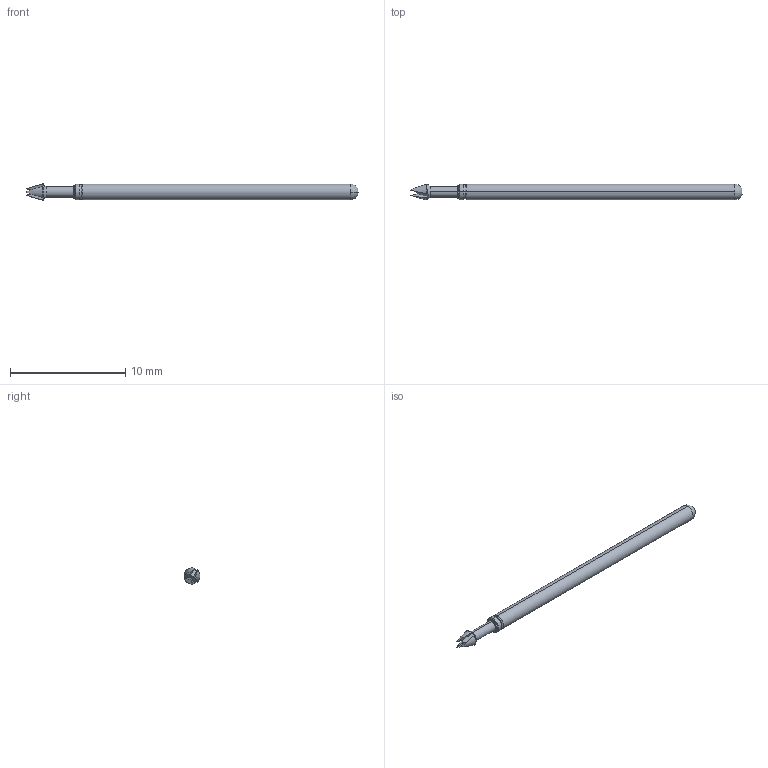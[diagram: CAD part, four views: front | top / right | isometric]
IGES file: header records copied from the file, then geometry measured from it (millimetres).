
Start section: SolidWorks IGES file using analytic representation for surfaces
Global section: file name: Z:\probe solid model mockups\Solidworks models\POGO-25 IGS files\POGO-25UN RECD.IGS; native system: SolidWorks 2006 by SolidWorks Corporation; preprocessor: SolidWorks 2006 by SolidWorks Corporation; author: tsakatani; date: 071214.093614; units: inch
Bounding box: 28.78 x 1.38 x 1.4 mm (x, y, z)
Surface area: 120.9 mm2 (no closed solid volume)
Topology: 0 solids, 0 shells, 37 faces, 236 edges, 236 vertices
Faces by surface type: revolution 22, bspline 15
